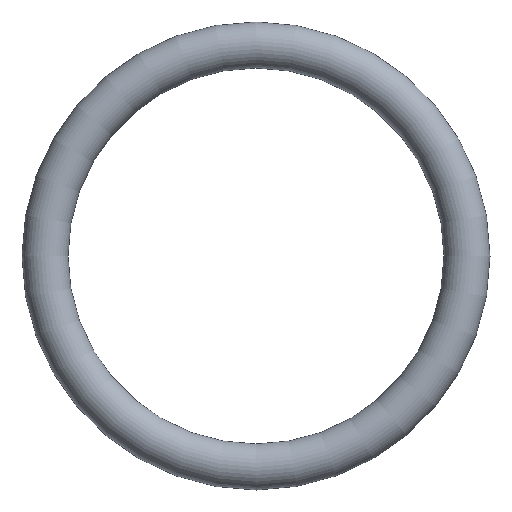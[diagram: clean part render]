
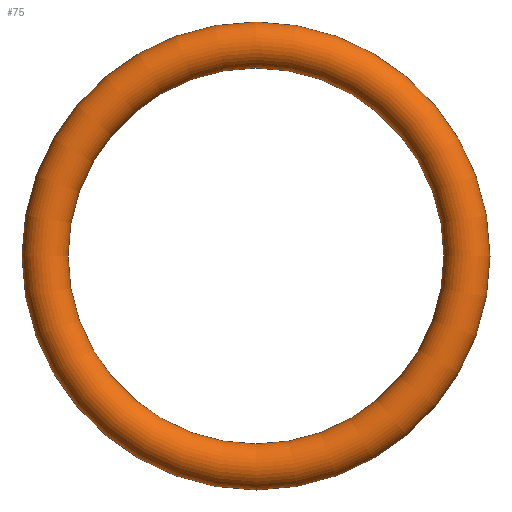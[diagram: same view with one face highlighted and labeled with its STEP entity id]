
A CAD part, front view. The second image highlights one B-rep face of the part: STEP entity #75.
In plain terms, the highlighted toroidal (fillet/blend) face has major radius 11 mm and minor radius 1.2 mm.
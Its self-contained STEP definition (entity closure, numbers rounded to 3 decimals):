
#75 = ADVANCED_FACE( '', ( #77 ), #78, .T. );
#77 = FACE_BOUND( '', #79, .T. );
#78 = TOROIDAL_SURFACE( '', #80, 11., 1.2 );
#79 = VERTEX_LOOP( '', #81 );
#80 = AXIS2_PLACEMENT_3D( '', #82, #83, #84 );
#81 = VERTEX_POINT( '', #85 );
#82 = CARTESIAN_POINT( '', ( 0., 0., 0. ) );
#83 = DIRECTION( '', ( 0., -1., 0. ) );
#84 = DIRECTION( '', ( 0., 0., -1. ) );
#85 = CARTESIAN_POINT( '', ( 0., 0., -12.2 ) );
